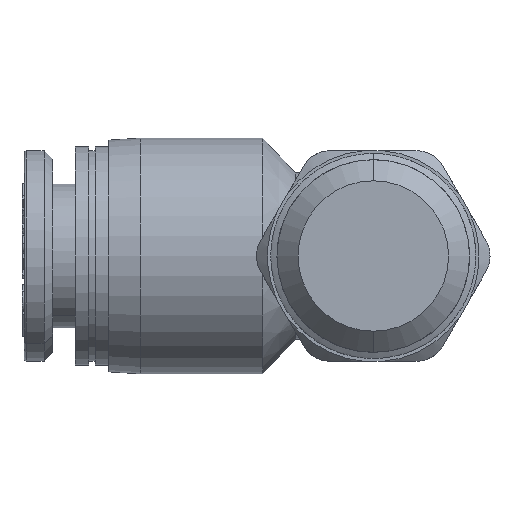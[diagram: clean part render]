
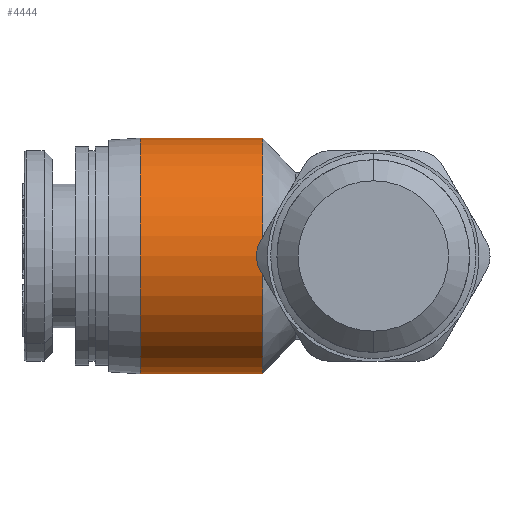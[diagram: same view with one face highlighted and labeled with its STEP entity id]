
A CAD part, front view. The second image highlights one B-rep face of the part: STEP entity #4444.
In plain terms, the highlighted cylindrical face has radius 5.6 mm (diameter 11.2 mm), a partial arc.
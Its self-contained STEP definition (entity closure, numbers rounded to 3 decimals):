
#165 = AXIS2_PLACEMENT_3D ( 'NONE', #7773, #1360, #7158 ) ;
#232 = AXIS2_PLACEMENT_3D ( 'NONE', #7226, #4607, #5950 ) ;
#419 = CARTESIAN_POINT ( 'NONE',  ( -3.1, 0., 5.6 ) ) ;
#636 = DIRECTION ( 'NONE',  ( -1., 0., 0. ) ) ;
#1152 = ORIENTED_EDGE ( 'NONE', *, *, #1222, .F. ) ;
#1222 = EDGE_CURVE ( 'NONE', #6314, #7189, #7849, .T. ) ;
#1331 = LINE ( 'NONE', #3235, #6358 ) ;
#1360 = DIRECTION ( 'NONE',  ( -1., 0., 0. ) ) ;
#1710 = FACE_OUTER_BOUND ( 'NONE', #3311, .T. ) ;
#1734 = EDGE_CURVE ( 'NONE', #2062, #6314, #1331, .T. ) ;
#1844 = ORIENTED_EDGE ( 'NONE', *, *, #6905, .T. ) ;
#2054 = CARTESIAN_POINT ( 'NONE',  ( 0., 0., -5.6 ) ) ;
#2062 = VERTEX_POINT ( 'NONE', #6493 ) ;
#2385 = DIRECTION ( 'NONE',  ( -1., 0., 0. ) ) ;
#2449 = CARTESIAN_POINT ( 'NONE',  ( 0., 0., 5.6 ) ) ;
#2655 = DIRECTION ( 'NONE',  ( 0., 0., 1. ) ) ;
#2810 = ORIENTED_EDGE ( 'NONE', *, *, #1734, .F. ) ;
#2895 = VECTOR ( 'NONE', #2385, 1000. ) ;
#3001 = CIRCLE ( 'NONE', #5105, 5.6 ) ;
#3190 = CARTESIAN_POINT ( 'NONE',  ( 5.8, 0., 0. ) ) ;
#3235 = CARTESIAN_POINT ( 'NONE',  ( -3.1, 0., -5.6 ) ) ;
#3266 = DIRECTION ( 'NONE',  ( -1., 0., 0. ) ) ;
#3311 = EDGE_LOOP ( 'NONE', ( #2810, #1844, #3716, #1152 ) ) ;
#3716 = ORIENTED_EDGE ( 'NONE', *, *, #6600, .T. ) ;
#4314 = LINE ( 'NONE', #419, #2895 ) ;
#4444 = ADVANCED_FACE ( 'NONE', ( #1710 ), #5937, .T. ) ;
#4607 = DIRECTION ( 'NONE',  ( -1., 0., 0. ) ) ;
#5105 = AXIS2_PLACEMENT_3D ( 'NONE', #3190, #3266, #2655 ) ;
#5937 = CYLINDRICAL_SURFACE ( 'NONE', #232, 5.6 ) ;
#5950 = DIRECTION ( 'NONE',  ( 0., 0., 1. ) ) ;
#6314 = VERTEX_POINT ( 'NONE', #2054 ) ;
#6358 = VECTOR ( 'NONE', #636, 1000. ) ;
#6430 = CARTESIAN_POINT ( 'NONE',  ( 5.8, 0., 5.6 ) ) ;
#6493 = CARTESIAN_POINT ( 'NONE',  ( 5.8, 0., -5.6 ) ) ;
#6600 = EDGE_CURVE ( 'NONE', #7884, #7189, #4314, .T. ) ;
#6905 = EDGE_CURVE ( 'NONE', #2062, #7884, #3001, .T. ) ;
#7158 = DIRECTION ( 'NONE',  ( 0., 0., 1. ) ) ;
#7189 = VERTEX_POINT ( 'NONE', #2449 ) ;
#7226 = CARTESIAN_POINT ( 'NONE',  ( -3.1, 0., 0. ) ) ;
#7773 = CARTESIAN_POINT ( 'NONE',  ( 0., 0., 0. ) ) ;
#7849 = CIRCLE ( 'NONE', #165, 5.6 ) ;
#7884 = VERTEX_POINT ( 'NONE', #6430 ) ;
